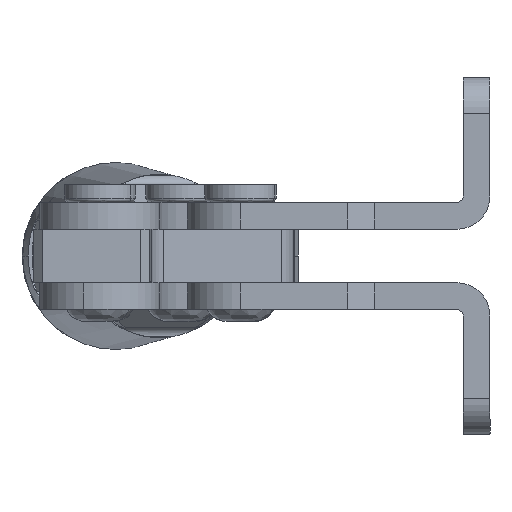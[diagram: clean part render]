
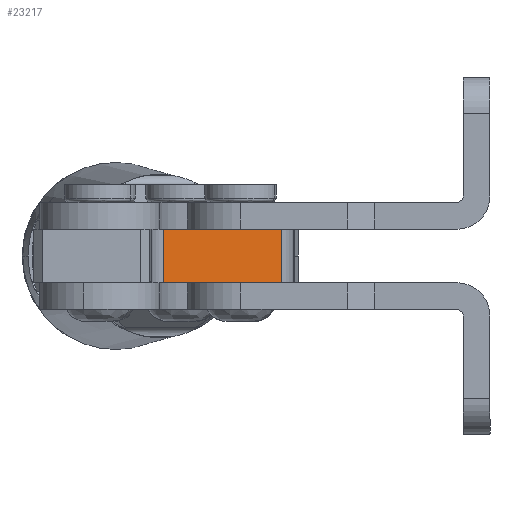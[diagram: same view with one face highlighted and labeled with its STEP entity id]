
A CAD part, left-side view. The second image highlights one B-rep face of the part: STEP entity #23217.
In plain terms, the highlighted planar face has unit normal (-0.754, -0.657, 0).
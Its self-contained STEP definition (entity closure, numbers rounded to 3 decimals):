
#476 = VERTEX_POINT ( 'NONE', #19889 ) ;
#3830 = ORIENTED_EDGE ( 'NONE', *, *, #13180, .F. ) ;
#6706 = DIRECTION ( 'NONE',  ( -0.753, -0.659, 0. ) ) ;
#7048 = VECTOR ( 'NONE', #25397, 1000. ) ;
#7066 = LINE ( 'NONE', #8885, #20727 ) ;
#7177 = VERTEX_POINT ( 'NONE', #14370 ) ;
#8085 = EDGE_CURVE ( 'NONE', #18097, #476, #22709, .T. ) ;
#8885 = CARTESIAN_POINT ( 'NONE',  ( 73.055, -27.634, -6. ) ) ;
#9061 = ORIENTED_EDGE ( 'NONE', *, *, #23072, .F. ) ;
#9263 = VECTOR ( 'NONE', #24991, 1000. ) ;
#9491 = ORIENTED_EDGE ( 'NONE', *, *, #11278, .T. ) ;
#11278 = EDGE_CURVE ( 'NONE', #15419, #18097, #18877, .T. ) ;
#11562 = CARTESIAN_POINT ( 'NONE',  ( 73.055, -27.634, -6. ) ) ;
#13180 = EDGE_CURVE ( 'NONE', #15419, #7177, #16411, .T. ) ;
#14064 = DIRECTION ( 'NONE',  ( 0., 0., -1. ) ) ;
#14370 = CARTESIAN_POINT ( 'NONE',  ( 73.055, -27.634, 0. ) ) ;
#15419 = VERTEX_POINT ( 'NONE', #15695 ) ;
#15421 = ORIENTED_EDGE ( 'NONE', *, *, #8085, .T. ) ;
#15695 = CARTESIAN_POINT ( 'NONE',  ( 61.445, -14.366, 0. ) ) ;
#16098 = CARTESIAN_POINT ( 'NONE',  ( 61.445, -14.366, 0. ) ) ;
#16411 = LINE ( 'NONE', #16098, #7048 ) ;
#18097 = VERTEX_POINT ( 'NONE', #25972 ) ;
#18611 = EDGE_LOOP ( 'NONE', ( #15421, #9061, #3830, #9491 ) ) ;
#18728 = CARTESIAN_POINT ( 'NONE',  ( 61.445, -14.366, -6. ) ) ;
#18877 = LINE ( 'NONE', #18728, #20649 ) ;
#18899 = DIRECTION ( 'NONE',  ( 0.659, -0.753, 0. ) ) ;
#19889 = CARTESIAN_POINT ( 'NONE',  ( 73.055, -27.634, -6. ) ) ;
#20649 = VECTOR ( 'NONE', #25730, 1000. ) ;
#20727 = VECTOR ( 'NONE', #14064, 1000. ) ;
#21183 = FACE_OUTER_BOUND ( 'NONE', #18611, .T. ) ;
#22709 = LINE ( 'NONE', #29239, #9263 ) ;
#23072 = EDGE_CURVE ( 'NONE', #7177, #476, #7066, .T. ) ;
#23156 = AXIS2_PLACEMENT_3D ( 'NONE', #11562, #6706, #18899 ) ;
#23217 = ADVANCED_FACE ( 'NONE', ( #21183 ), #25446, .T. ) ;
#24991 = DIRECTION ( 'NONE',  ( 0.659, -0.753, 0. ) ) ;
#25397 = DIRECTION ( 'NONE',  ( 0.659, -0.753, 0. ) ) ;
#25446 = PLANE ( 'NONE',  #23156 ) ;
#25730 = DIRECTION ( 'NONE',  ( 0., 0., -1. ) ) ;
#25972 = CARTESIAN_POINT ( 'NONE',  ( 61.445, -14.366, -6. ) ) ;
#29239 = CARTESIAN_POINT ( 'NONE',  ( 73.055, -27.634, -6. ) ) ;
